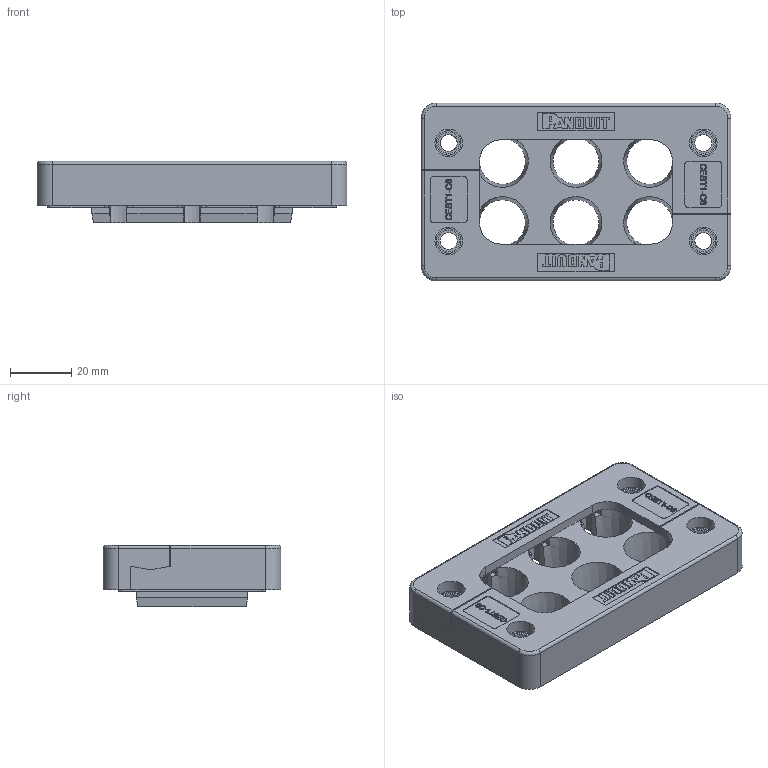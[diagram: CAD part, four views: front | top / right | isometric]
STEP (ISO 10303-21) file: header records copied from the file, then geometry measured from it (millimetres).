
FILE_DESCRIPTION(/* description */ (''),/* implementation_level */ '2;1');
FILE_NAME(/* name */ 'H:\SapWorkDir\Inventor\MP1\ConvertTempPath\87_11_121468_00_A_220620_KDL-C 10-6 ZSB.stp',/* time_stamp */ '2022-06-20T11:51:39+02:00',/* author */ ('BAUER'),/* organization */ (''),/* preprocessor_version */ 'ST-DEVELOPER v16.13',/* originating_system */ 'Autodesk Inventor 2018',/* authorisation */ '');
FILE_SCHEMA (('AUTOMOTIVE_DESIGN { 1 0 10303 214 3 1 1 }'));
Length unit declared in the file: millimetre
Products named in the file (3): 121468; 16-polig_Tüllenblock; 121418
Assembly tree (3 placements, depth 2):
  121468
    16-polig_Tüllenblock
    121418  x2
Bounding box: 101 x 58 x 20 mm (x, y, z)
Volume: 64717.9 mm3; surface area: 33901.9 mm2
Topology: 3 solids, 3 shells, 929 faces, 2514 edges, 1668 vertices
Faces by surface type: plane 593, bspline 168, cylinder 148, torus 12, cone 8
Full cylindrical faces by diameter (mm): 5 x4, 5.5 x10, 6 x2, 7 x4, 8 x4, 9 x4
Entity records: 20295 total; most frequent: CARTESIAN_POINT 4889, ORIENTED_EDGE 3370, DIRECTION 2795, EDGE_CURVE 1685, LINE 1197, VECTOR 1197, VERTEX_POINT 1125, AXIS2_PLACEMENT_3D 799
